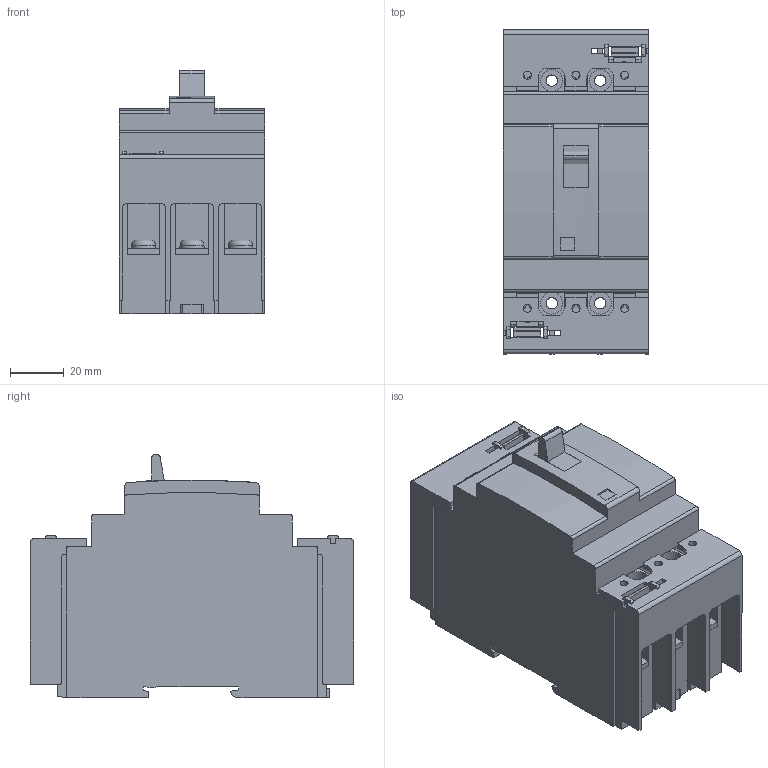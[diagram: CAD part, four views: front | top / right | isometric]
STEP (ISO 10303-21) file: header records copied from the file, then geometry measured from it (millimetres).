
FILE_DESCRIPTION (( 'STEP AP214' ), '1' );
FILE_NAME ('BW50RBGU-3P.STEP', '2015-01-27T06:30:44', ( '川崎工場' ), ( '富士電機株式会社' ), 'SwSTEP 2.0', 'SolidWorks 2014', '' );
FILE_SCHEMA (( 'AUTOMOTIVE_DESIGN' ));
Length unit declared in the file: millimetre
Products named in the file (8): Screw_M5_L14; BW50RBGU-3P; BW50RBGU-3P_Terminal_Plate_Asm; BW32SBG-2P_Terminal_Plate1; BW50RBGU-3P_SWITCH_ON.; BW9BTBA-S3; BW50RBGU-3P_Screw_Asm; BW50RBGU-3P_CASE.
Assembly tree (18 placements, depth 3):
  BW50RBGU-3P
    BW50RBGU-3P_CASE.
    BW50RBGU-3P_SWITCH_ON.
    BW50RBGU-3P_Terminal_Plate_Asm
      BW32SBG-2P_Terminal_Plate1  x6
    BW50RBGU-3P_Screw_Asm
      Screw_M5_L14  x6
    BW9BTBA-S3  x2
Bounding box: 54 x 120 x 90.2 mm (x, y, z)
Volume: 351276.5 mm3; surface area: 69662.8 mm2
Topology: 16 solids, 16 shells, 616 faces, 1740 edges, 1152 vertices
Faces by surface type: plane 445, cylinder 159, cone 6, torus 6
Full cylindrical faces by diameter (mm): 3 x6, 4.2 x4, 5 x6, 6 x6, 8.1 x4
Entity records: 11015 total; most frequent: CARTESIAN_POINT 1947, ORIENTED_EDGE 1850, DIRECTION 1795, EDGE_CURVE 925, LINE 729, VECTOR 729, VERTEX_POINT 621, AXIS2_PLACEMENT_3D 533
